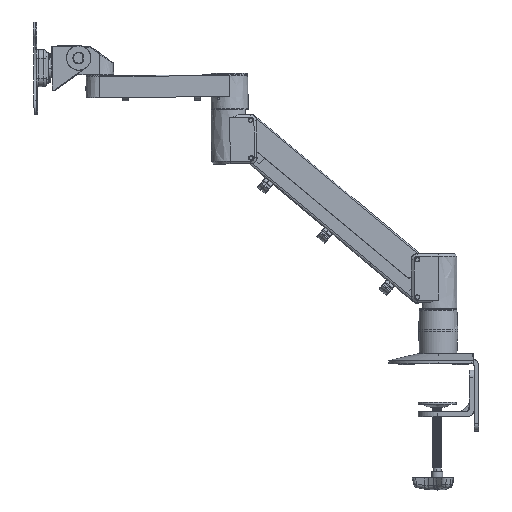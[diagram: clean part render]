
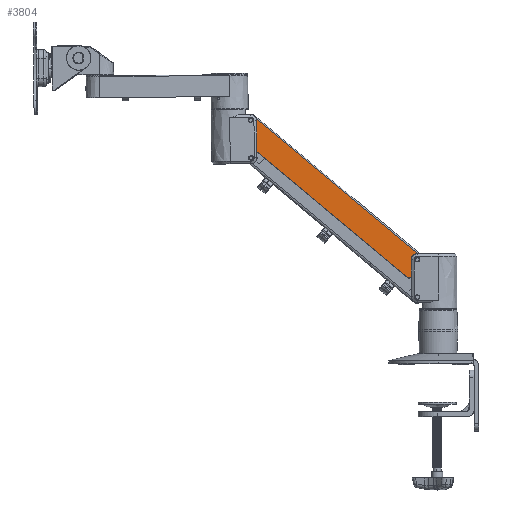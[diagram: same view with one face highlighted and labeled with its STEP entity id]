
A CAD part, left-side view. The second image highlights one B-rep face of the part: STEP entity #3804.
In plain terms, the highlighted planar face has unit normal (-1, -0.006, 0.007).
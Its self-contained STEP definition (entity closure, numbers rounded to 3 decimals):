
#3804=ADVANCED_FACE('',(#7501),#53688,.T.);
#7501=FACE_OUTER_BOUND('',#11289,.T.);
#11289=EDGE_LOOP('',(#27443,#27444,#27445,#27446,#27447,#27448,#27449,#27450,
#27451,#27452));
#27443=ORIENTED_EDGE('',*,*,#37026,.T.);
#27444=ORIENTED_EDGE('',*,*,#37025,.T.);
#27445=ORIENTED_EDGE('',*,*,#37024,.T.);
#27446=ORIENTED_EDGE('',*,*,#37023,.T.);
#27447=ORIENTED_EDGE('',*,*,#37022,.T.);
#27448=ORIENTED_EDGE('',*,*,#37021,.T.);
#27449=ORIENTED_EDGE('',*,*,#37020,.T.);
#27450=ORIENTED_EDGE('',*,*,#37019,.T.);
#27451=ORIENTED_EDGE('',*,*,#37003,.F.);
#27452=ORIENTED_EDGE('',*,*,#37016,.F.);
#37003=EDGE_CURVE('',#51191,#51190,#43081,.T.);
#37016=EDGE_CURVE('',#51201,#51191,#43093,.T.);
#37019=EDGE_CURVE('',#51202,#51190,#43094,.T.);
#37020=EDGE_CURVE('',#51203,#51202,#46386,.T.);
#37021=EDGE_CURVE('',#51204,#51203,#43095,.T.);
#37022=EDGE_CURVE('',#51205,#51204,#46387,.T.);
#37023=EDGE_CURVE('',#51206,#51205,#43096,.T.);
#37024=EDGE_CURVE('',#51207,#51206,#43097,.T.);
#37025=EDGE_CURVE('',#51208,#51207,#43098,.T.);
#37026=EDGE_CURVE('',#51201,#51208,#43099,.T.);
#43081=B_SPLINE_CURVE_WITH_KNOTS('',3,(#148952,#148953,#148954,#148955,
#148956,#148957,#148958,#148959,#148960,#148961,#148962,#148963,#148964,
#148965),.UNSPECIFIED.,.F.,.F.,(4,1,1,1,1,1,1,1,1,1,1,4),(0.,0.091,
0.182,0.273,0.364,0.455,0.545,
0.636,0.727,0.818,0.909,1.),
 .UNSPECIFIED.);
#43093=B_SPLINE_CURVE_WITH_KNOTS('',3,(#149028,#149029,#149030,#149031,
#149032,#149033,#149034),.UNSPECIFIED.,.F.,.F.,(4,1,1,1,4),(0.,0.25,0.5,
0.75,1.),.UNSPECIFIED.);
#43094=B_SPLINE_CURVE_WITH_KNOTS('',1,(#149045,#149046),.UNSPECIFIED.,.F.,
 .F.,(2,2),(-20.908,0.),.UNSPECIFIED.);
#43095=B_SPLINE_CURVE_WITH_KNOTS('',1,(#149052,#149053),.UNSPECIFIED.,.F.,
 .F.,(2,2),(0.,295.885),.UNSPECIFIED.);
#43096=B_SPLINE_CURVE_WITH_KNOTS('',1,(#149059,#149060),.UNSPECIFIED.,.F.,
 .F.,(2,2),(-20.907,0.),.UNSPECIFIED.);
#43097=B_SPLINE_CURVE_WITH_KNOTS('',3,(#149061,#149062,#149063,#149064,
#149065,#149066,#149067,#149068,#149069,#149070,#149071,#149072,#149073,
#149074),.UNSPECIFIED.,.F.,.F.,(4,1,1,1,1,1,1,1,1,1,1,4),(-1.,-0.909,
-0.818,-0.727,-0.636,-0.545,-0.455,
-0.364,-0.273,-0.182,-0.091,0.),
 .UNSPECIFIED.);
#43098=B_SPLINE_CURVE_WITH_KNOTS('',3,(#149075,#149076,#149077,#149078,
#149079,#149080,#149081),.UNSPECIFIED.,.F.,.F.,(4,1,1,1,4),(-1.,-0.75,-0.5,
-0.25,0.),.UNSPECIFIED.);
#43099=B_SPLINE_CURVE_WITH_KNOTS('',1,(#149082,#149083),.UNSPECIFIED.,.F.,
 .F.,(2,2),(0.,275.712),.UNSPECIFIED.);
#46386=(
BOUNDED_CURVE()
B_SPLINE_CURVE(2,(#149047,#149048,#149049,#149050,#149051),
 .UNSPECIFIED.,.F.,.F.)
B_SPLINE_CURVE_WITH_KNOTS((3,2,3),(-3.976,-1.988,
0.),.UNSPECIFIED.)
CURVE()
GEOMETRIC_REPRESENTATION_ITEM()
RATIONAL_B_SPLINE_CURVE((1.,0.922,1.,0.922,1.))
REPRESENTATION_ITEM('')
);
#46387=(
BOUNDED_CURVE()
B_SPLINE_CURVE(2,(#149054,#149055,#149056,#149057,#149058),
 .UNSPECIFIED.,.F.,.F.)
B_SPLINE_CURVE_WITH_KNOTS((3,2,3),(-3.976,-1.988,0.),
 .UNSPECIFIED.)
CURVE()
GEOMETRIC_REPRESENTATION_ITEM()
RATIONAL_B_SPLINE_CURVE((1.,0.922,1.,0.922,1.))
REPRESENTATION_ITEM('')
);
#51190=VERTEX_POINT('',#148837);
#51191=VERTEX_POINT('',#148838);
#51201=VERTEX_POINT('',#148848);
#51202=VERTEX_POINT('',#148849);
#51203=VERTEX_POINT('',#148850);
#51204=VERTEX_POINT('',#148851);
#51205=VERTEX_POINT('',#148852);
#51206=VERTEX_POINT('',#148853);
#51207=VERTEX_POINT('',#148854);
#51208=VERTEX_POINT('',#148855);
#53688=PLANE('',#58269);
#58269=AXIS2_PLACEMENT_3D('',#148026,#60365,$);
#60365=DIRECTION('',(-1.,-0.006,0.007));
#148026=CARTESIAN_POINT('',(-17.629,269.031,351.82));
#148837=CARTESIAN_POINT('',(-17.741,23.25,129.783));
#148838=CARTESIAN_POINT('',(-17.718,33.489,141.782));
#148848=CARTESIAN_POINT('',(-17.661,26.738,144.629));
#148849=CARTESIAN_POINT('',(-17.923,36.355,113.491));
#148850=CARTESIAN_POINT('',(-17.946,39.906,113.14));
#148851=CARTESIAN_POINT('',(-17.946,266.959,302.864));
#148852=CARTESIAN_POINT('',(-17.923,267.244,306.422));
#148853=CARTESIAN_POINT('',(-17.741,253.541,322.212));
#148854=CARTESIAN_POINT('',(-17.718,239.913,314.269));
#148855=CARTESIAN_POINT('',(-17.661,238.311,321.418));
#148952=CARTESIAN_POINT('',(-17.718,33.489,141.782));
#148953=CARTESIAN_POINT('',(-17.724,33.936,141.247));
#148954=CARTESIAN_POINT('',(-17.736,34.663,140.103));
#148955=CARTESIAN_POINT('',(-17.752,35.301,138.136));
#148956=CARTESIAN_POINT('',(-17.767,35.417,136.085));
#148957=CARTESIAN_POINT('',(-17.778,35.014,134.072));
#148958=CARTESIAN_POINT('',(-17.785,34.118,132.226));
#148959=CARTESIAN_POINT('',(-17.788,32.786,130.666));
#148960=CARTESIAN_POINT('',(-17.787,31.105,129.49));
#148961=CARTESIAN_POINT('',(-17.781,29.18,128.776));
#148962=CARTESIAN_POINT('',(-17.771,27.136,128.567));
#148963=CARTESIAN_POINT('',(-17.757,25.094,128.888));
#148964=CARTESIAN_POINT('',(-17.747,23.85,129.425));
#148965=CARTESIAN_POINT('',(-17.741,23.25,129.783));
#149028=CARTESIAN_POINT('',(-17.661,26.738,144.629));
#149029=CARTESIAN_POINT('',(-17.664,27.382,144.678));
#149030=CARTESIAN_POINT('',(-17.672,28.642,144.623));
#149031=CARTESIAN_POINT('',(-17.686,30.489,144.095));
#149032=CARTESIAN_POINT('',(-17.701,32.156,143.141));
#149033=CARTESIAN_POINT('',(-17.712,33.075,142.278));
#149034=CARTESIAN_POINT('',(-17.718,33.489,141.782));
#149045=CARTESIAN_POINT('',(-17.923,36.355,113.491));
#149046=CARTESIAN_POINT('',(-17.741,23.25,129.783));
#149047=CARTESIAN_POINT('',(-17.946,39.906,113.14));
#149048=CARTESIAN_POINT('',(-17.946,39.101,112.466));
#149049=CARTESIAN_POINT('',(-17.939,38.057,112.569));
#149050=CARTESIAN_POINT('',(-17.933,37.012,112.673));
#149051=CARTESIAN_POINT('',(-17.923,36.355,113.491));
#149052=CARTESIAN_POINT('',(-17.946,266.959,302.864));
#149053=CARTESIAN_POINT('',(-17.946,39.906,113.14));
#149054=CARTESIAN_POINT('',(-17.923,267.244,306.422));
#149055=CARTESIAN_POINT('',(-17.933,267.933,305.63));
#149056=CARTESIAN_POINT('',(-17.939,267.849,304.583));
#149057=CARTESIAN_POINT('',(-17.946,267.765,303.537));
#149058=CARTESIAN_POINT('',(-17.946,266.959,302.864));
#149059=CARTESIAN_POINT('',(-17.741,253.541,322.212));
#149060=CARTESIAN_POINT('',(-17.923,267.244,306.422));
#149061=CARTESIAN_POINT('',(-17.718,239.913,314.269));
#149062=CARTESIAN_POINT('',(-17.724,240.36,313.734));
#149063=CARTESIAN_POINT('',(-17.736,241.357,312.815));
#149064=CARTESIAN_POINT('',(-17.752,243.179,311.838));
#149065=CARTESIAN_POINT('',(-17.767,245.176,311.36));
#149066=CARTESIAN_POINT('',(-17.778,247.229,311.398));
#149067=CARTESIAN_POINT('',(-17.785,249.205,311.952));
#149068=CARTESIAN_POINT('',(-17.788,250.977,312.985));
#149069=CARTESIAN_POINT('',(-17.787,252.433,314.431));
#149070=CARTESIAN_POINT('',(-17.781,253.478,316.198));
#149071=CARTESIAN_POINT('',(-17.771,254.046,318.172));
#149072=CARTESIAN_POINT('',(-17.757,254.094,320.239));
#149073=CARTESIAN_POINT('',(-17.747,253.786,321.559));
#149074=CARTESIAN_POINT('',(-17.741,253.541,322.212));
#149075=CARTESIAN_POINT('',(-17.661,238.311,321.418));
#149076=CARTESIAN_POINT('',(-17.664,238.148,320.793));
#149077=CARTESIAN_POINT('',(-17.672,237.979,319.544));
#149078=CARTESIAN_POINT('',(-17.686,238.17,317.632));
#149079=CARTESIAN_POINT('',(-17.701,238.813,315.822));
#149080=CARTESIAN_POINT('',(-17.712,239.499,314.765));
#149081=CARTESIAN_POINT('',(-17.718,239.913,314.269));
#149082=CARTESIAN_POINT('',(-17.661,26.738,144.629));
#149083=CARTESIAN_POINT('',(-17.661,238.311,321.418));
